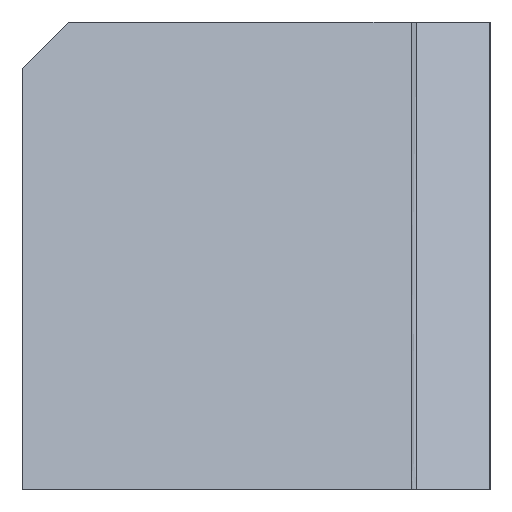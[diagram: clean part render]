
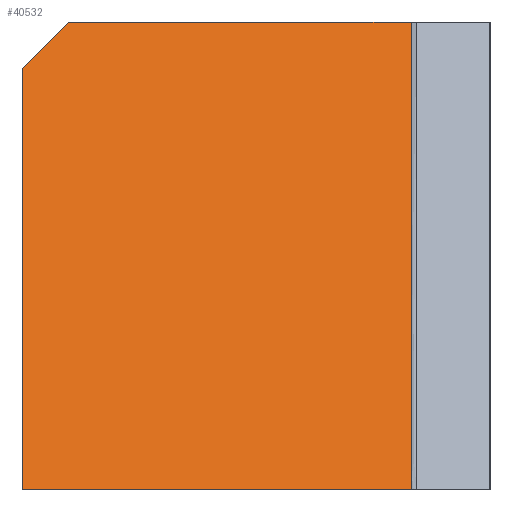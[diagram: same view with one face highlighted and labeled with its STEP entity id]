
A CAD part, left-side view. The second image highlights one B-rep face of the part: STEP entity #40532.
In plain terms, the highlighted planar face has unit normal (-0.943, 0, 0.334).
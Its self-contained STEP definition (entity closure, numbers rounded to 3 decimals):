
#4204=ORIENTED_EDGE('',*,*,#13216,.F.);
#4205=ORIENTED_EDGE('',*,*,#13217,.T.);
#4206=ORIENTED_EDGE('',*,*,#10657,.F.);
#4207=ORIENTED_EDGE('',*,*,#13218,.F.);
#4208=ORIENTED_EDGE('',*,*,#12013,.F.);
#10657=EDGE_CURVE('',#15163,#15164,#18155,.T.);
#12013=EDGE_CURVE('',#16518,#16520,#19055,.T.);
#13216=EDGE_CURVE('',#17722,#16518,#19858,.T.);
#13217=EDGE_CURVE('',#17722,#15164,#19859,.T.);
#13218=EDGE_CURVE('',#16520,#15163,#19860,.T.);
#15163=VERTEX_POINT('',#52175);
#15164=VERTEX_POINT('',#52176);
#16518=VERTEX_POINT('',#55428);
#16520=VERTEX_POINT('',#55431);
#17722=VERTEX_POINT('',#57837);
#18155=LINE('',#52174,#21667);
#19055=LINE('',#55430,#22567);
#19858=LINE('',#57836,#23370);
#19859=LINE('',#57838,#23371);
#19860=LINE('',#57839,#23372);
#21667=VECTOR('',#44156,1000.);
#22567=VECTOR('',#45902,1000.);
#23370=VECTOR('',#47507,1000.);
#23371=VECTOR('',#47508,1000.);
#23372=VECTOR('',#47509,1000.);
#25136=EDGE_LOOP('',(#4204,#4205,#4206,#4207,#4208));
#26816=FACE_BOUND('',#25136,.T.);
#28435=PLANE('',#42933);
#40532=ADVANCED_FACE('',(#26816),#28435,.T.);
#42933=AXIS2_PLACEMENT_3D('',#57835,#47505,#47506);
#44156=DIRECTION('',(0.,1.,0.));
#45902=DIRECTION('',(0.,-1.,0.));
#47505=DIRECTION('',(-0.942,0.,0.334));
#47506=DIRECTION('',(0.,1.,0.));
#47507=DIRECTION('',(0.243,-0.686,0.686));
#47508=DIRECTION('',(-0.334,0.,-0.942));
#47509=DIRECTION('',(-0.334,0.,-0.942));
#52174=CARTESIAN_POINT('',(-7.094,0.,-20.));
#52175=CARTESIAN_POINT('',(-7.094,-16.625,-20.));
#52176=CARTESIAN_POINT('',(-7.094,0.,-20.));
#55428=CARTESIAN_POINT('',(0.,-2.,0.));
#55430=CARTESIAN_POINT('',(0.,0.,0.));
#55431=CARTESIAN_POINT('',(0.,-16.625,0.));
#57835=CARTESIAN_POINT('',(0.,-16.625,0.));
#57836=CARTESIAN_POINT('',(1.09,-5.074,3.074));
#57837=CARTESIAN_POINT('',(-0.709,0.,-2.));
#57838=CARTESIAN_POINT('',(0.,0.,0.));
#57839=CARTESIAN_POINT('',(0.,-16.625,0.));
